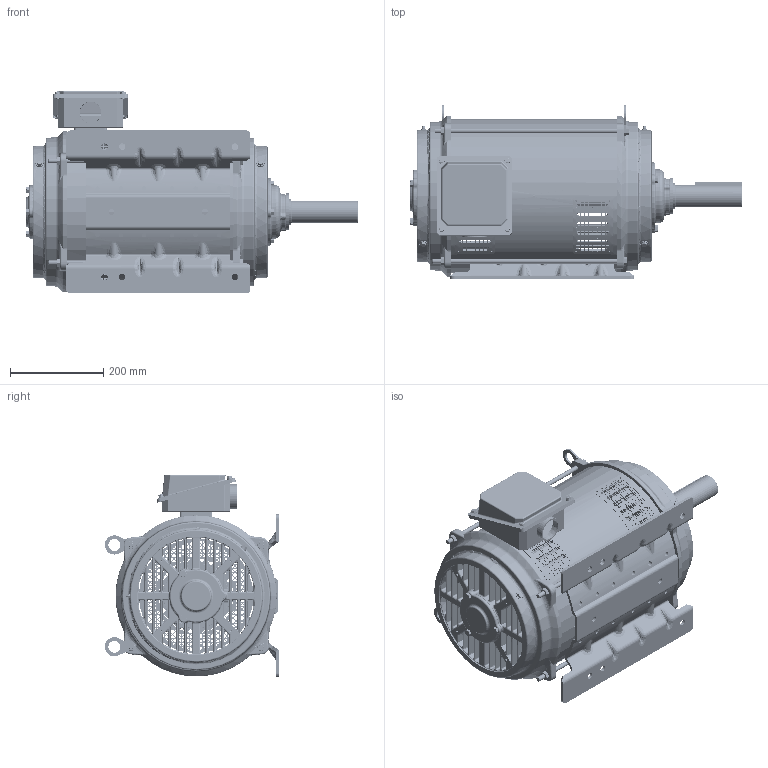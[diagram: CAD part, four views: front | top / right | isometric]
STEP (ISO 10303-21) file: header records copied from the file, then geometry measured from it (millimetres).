
FILE_DESCRIPTION (( 'STEP AP203' ), '1' );
FILE_NAME ('SS621048-200_RevA.STEP', '2022-02-01T12:52:42', ( '' ), ( '' ), 'SwSTEP 2.0', 'SolidWorks 2021', '' );
FILE_SCHEMA (( 'CONFIG_CONTROL_DESIGN' ));
Products named in the file (1): SS621048-200_RevA
Bounding box: 710.7 x 373.28 x 434.15 mm (x, y, z)
Volume: 9322317.6 mm3; surface area: 2455421.1 mm2
Topology: 56 solids, 56 shells, 11851 faces, 33543 edges, 21385 vertices
Faces by surface type: plane 4393, cylinder 3523, bspline 2761, cone 616, torus 498, sphere 60
Entity records: 475002 total; most frequent: CARTESIAN_POINT 188136, ORIENTED_EDGE 66420, DIRECTION 50838, EDGE_CURVE 33210, VERTEX_POINT 21379, AXIS2_PLACEMENT_3D 18953, EDGE_LOOP 13997, LINE 12932
